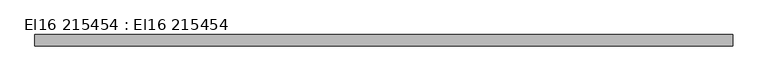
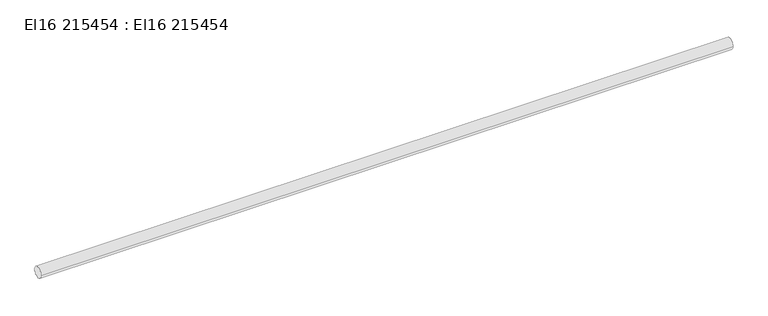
"""IFC4 building model written with IfcOpenShell, lengths in millimetres: cable carrier segment geometry, El16 215454 : El16 215454."""

from ifc_helpers import new_model, si_unit, point, frame, frame_2d, origin, place, context, project, spatial, circle_curve, trimmed, segment, composite_curve, outline, extrude, source, transform, mapped, element, save


def el16_215454_el16_215454_4c5d6d1c(model_context):
    return source(origin(), model_context, "Body", "SweptSolid", [
        extrude(outline(composite_curve([segment(trimmed(circle_curve(frame_2d((17022.1, 4200.0)), 9.5), [point((17012.6, 4200.0))], [point((17031.6, 4200.0))], False, "CARTESIAN"), True, "CONTINUOUS"), segment(trimmed(circle_curve(frame_2d((17022.1, 4200.0)), 9.5), [point((17031.6, 4200.0))], [point((17012.6, 4200.0))], False, "CARTESIAN"), True, "CONTINUOUS")], self_intersect=False)), frame((24505.0, 0.0, 0.0), z_axis=(1.0, 0.0, 0.0), x_axis=(0.0, 1.0, 0.0)), (0.0, 0.0, 1.0), 1180.0),
    ])


if __name__ == "__main__":
    model = new_model("IFC4")
    model_context = context("Model", 3, world=origin())
    ifc_project = project(units=[si_unit("LENGTHUNIT", "METRE", prefix="MILLI")], contexts=[model_context])
    site = spatial("IfcSite", under=ifc_project)
    building = spatial("IfcBuilding", under=site)
    placement = place(None, origin())
    el16_215454_el16_215454_shape = el16_215454_el16_215454_4c5d6d1c(model_context)
    element("IfcCableCarrierSegment", 1, ObjectType="El16 215454 : El16 215454", at=placement, inside=building, context=model_context, shape_type="MappedRepresentation", body=[
        mapped(el16_215454_el16_215454_shape, transform((0.0, 0.0, 0.0), x_axis=(1.0, 0.0, 0.0), y_axis=(0.0, 1.0, 0.0), z_axis=(0.0, 0.0, 1.0))),
    ])
    save(model, "model.ifc")
